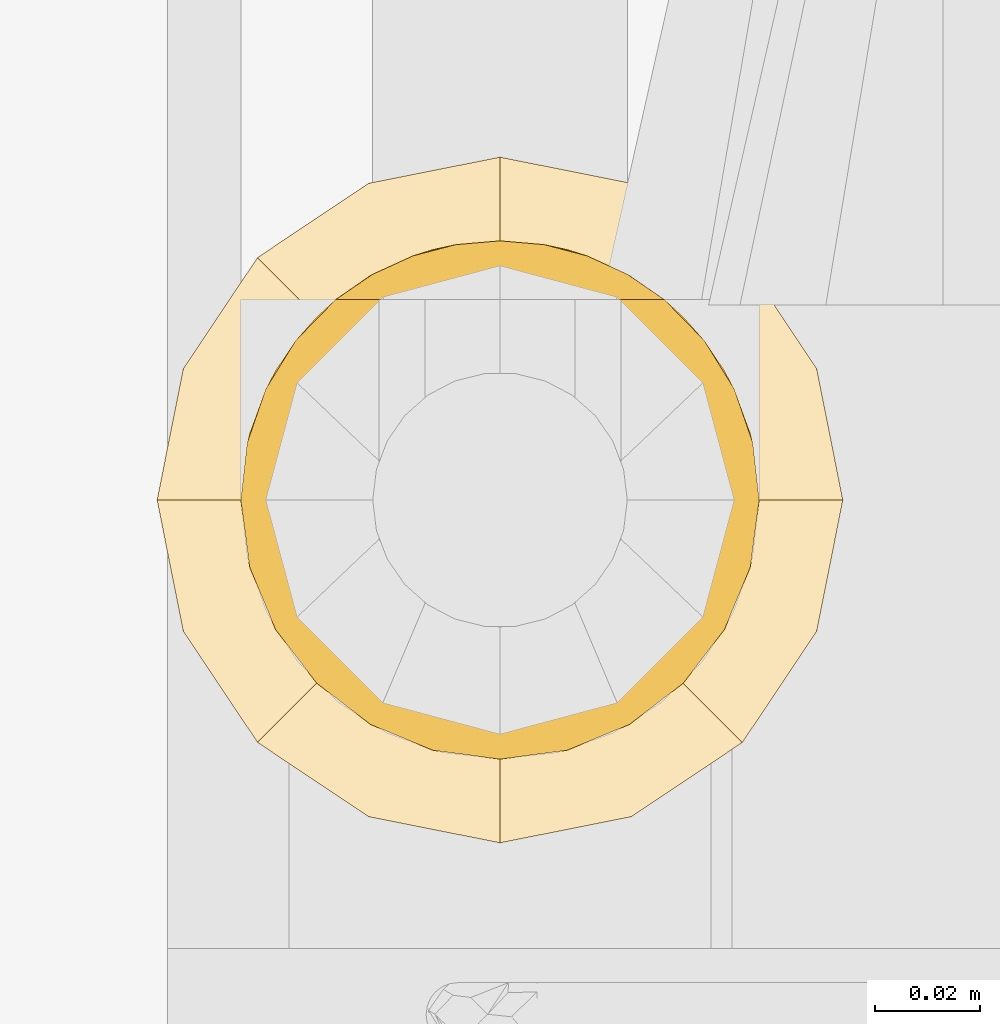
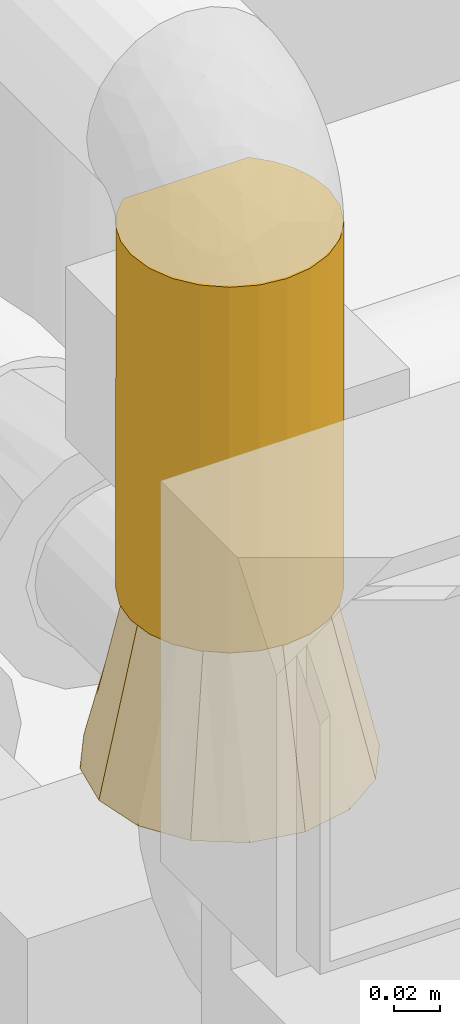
# One storey, part 23 of 94: 2 coverings.
"""IFC2X3 building model written with IfcOpenShell, lengths in millimetres."""

import ifcopenshell
import ifcopenshell.guid

model = None  # the IFC model being written
_history = None  # IfcOwnerHistory: only IFC2X3 demands one
_inside = {}  # id of a spatial element -> (the spatial element, [elements in it])
_under = {}  # id of a project, library or spatial element -> (it, [spatial elements below it])
_declared = {}  # id of a project -> (the project, [libraries it declares])
_typed = {}  # id of a type object -> (the type object, [elements of that type])
_made_of = {}  # id of a material, layer set ... -> (it, [elements and type objects made of it])


def new_model(schema):
    """Start an empty IFC model of exactly this schema.

    Asked for "IFC4X3", IfcOpenShell would pick the latest addendum, in which some entities
    have other attributes; the version numbers below select the first issue.
    IFC2X3 requires an IfcOwnerHistory on every rooted entity: one is made here for all.
    """
    global model, _history
    if schema == "IFC4X3":
        model = ifcopenshell.file(schema_version=(4, 3, 0, 0))
    else:
        model = ifcopenshell.file(schema=schema)
    _inside.clear()
    _under.clear()
    _declared.clear()
    _typed.clear()
    _made_of.clear()
    _history = None
    if model.schema == "IFC2X3":
        org = make("IfcOrganization", Name="unknown")
        user = make(
            "IfcPersonAndOrganization",
            ThePerson=make("IfcPerson", FamilyName="unknown"),
            TheOrganization=org,
        )
        app = make(
            "IfcApplication",
            ApplicationDeveloper=org,
            Version="unknown",
            ApplicationFullName="unknown",
            ApplicationIdentifier="unknown",
        )
        _history = make(
            "IfcOwnerHistory",
            OwningUser=user,
            OwningApplication=app,
            ChangeAction="ADDED",
            CreationDate=0,
        )
    return model


def make(cls, **values):
    """One entity of the class cls with the attributes given. An attribute that is None is left unset."""
    return model.create_entity(
        cls, **{name: value for name, value in values.items() if value is not None}
    )


def entity(cls, *values):
    """Any entity or typed value of the class cls, its attributes in the order of the schema. None: left unset."""
    e = model.create_entity(cls)
    for i, value in enumerate(values):
        if value is not None:
            e[i] = value
    return e


def rooted(cls, **values):
    """An entity with a GlobalId (a new one), such as an element, a storey or a relation."""
    return make(cls, GlobalId=ifcopenshell.guid.new(), OwnerHistory=_history, **values)


def si_unit(unit_type, name, prefix=None):
    """IfcSIUnit, for example si_unit("LENGTHUNIT", "METRE", prefix="MILLI")."""
    return make("IfcSIUnit", UnitType=unit_type, Prefix=prefix, Name=name)


def converted_unit(unit_type, name, factor, base, dimensions=None, offset=None):
    """IfcConversionBasedUnit, such as the inch: factor (a typed value) times the base unit."""
    return make(
        "IfcConversionBasedUnit"
        if offset is None
        else "IfcConversionBasedUnitWithOffset",
        ConversionOffset=offset,
        Dimensions=None
        if dimensions is None
        else entity("IfcDimensionalExponents", *dimensions),
        UnitType=unit_type,
        Name=name,
        ConversionFactor=make(
            "IfcMeasureWithUnit", ValueComponent=factor, UnitComponent=base
        ),
    )


def derived_unit(unit_type, elements):
    """IfcDerivedUnit: a product of units, each with its exponent."""
    return make(
        "IfcDerivedUnit",
        Elements=[
            make("IfcDerivedUnitElement", Unit=unit, Exponent=power)
            for unit, power in elements
        ],
        UnitType=unit_type,
    )


def assignment(units):
    """IfcUnitAssignment: the units of a project."""
    return None if units is None else make("IfcUnitAssignment", Units=units)


def point(xyz):
    """IfcCartesianPoint."""
    return None if xyz is None else make("IfcCartesianPoint", Coordinates=xyz)


def direction(xyz):
    """IfcDirection."""
    return None if xyz is None else make("IfcDirection", DirectionRatios=xyz)


def frame(location, z_axis=None, x_axis=None):
    """IfcAxis2Placement3D, a coordinate frame: its origin and axes. An axis left out is left unset."""
    return make(
        "IfcAxis2Placement3D",
        Location=point(location),
        Axis=direction(z_axis),
        RefDirection=direction(x_axis),
    )


def origin():
    """The frame at (0, 0, 0) with its axes left unset."""
    return frame((0.0, 0.0, 0.0))


def place(relative_to, where):
    """IfcLocalPlacement: puts the frame where relative to a parent placement (None: the world)."""
    return make(
        "IfcLocalPlacement", PlacementRelTo=relative_to, RelativePlacement=where
    )


def context(
    kind, dimensions, precision=None, world=None, true_north=None, identifier=None
):
    """IfcGeometricRepresentationContext, for example the 3D "Model" context."""
    return make(
        "IfcGeometricRepresentationContext",
        ContextIdentifier=identifier,
        ContextType=kind,
        CoordinateSpaceDimension=dimensions,
        Precision=precision,
        WorldCoordinateSystem=world,
        TrueNorth=true_north,
    )


def subcontext(parent, identifier, kind, view, scale=None):
    """IfcGeometricRepresentationSubContext, for example "Body" below "Model"."""
    return make(
        "IfcGeometricRepresentationSubContext",
        ContextIdentifier=identifier,
        ContextType=kind,
        ParentContext=parent,
        TargetScale=scale,
        TargetView=view,
    )


def project(units=None, contexts=None):
    """IfcProject with its units and contexts."""
    return rooted(
        "IfcProject",
        Name="project",
        RepresentationContexts=contexts,
        UnitsInContext=assignment(units),
    )


def spatial(cls, under=None, at=None, **own):
    """A site, building, storey or space (cls), placed at a placement, below another one or the project."""
    s = rooted(cls, ObjectPlacement=at, **own)
    if under is not None:
        _under.setdefault(under.id(), (under, []))[1].append(s)
    return s


def faces_of(points, faces, orient=None, outer=None):
    """IfcFace entities. A face is a list of loops; a loop is a list of indices into points, from 0.

    orient and outer hold one flag for each loop. By default every Orientation is true, the
    first loop of a face is its IfcFaceOuterBound and the others are IfcFaceBound.
    """
    made = []
    for i, loops in enumerate(faces):
        bounds = []
        for j, loop in enumerate(loops):
            is_outer = j == 0 if outer is None else outer[i][j]
            bounds.append(
                make(
                    "IfcFaceOuterBound" if is_outer else "IfcFaceBound",
                    Bound=make("IfcPolyLoop", Polygon=[points[k] for k in loop]),
                    Orientation=True if orient is None else orient[i][j],
                )
            )
        made.append(make("IfcFace", Bounds=bounds))
    return made


def faceted_brep(points, faces, orient=None, outer=None, voids=None):
    """IfcFacetedBrep: a solid bounded by flat faces; with voids (closed shells), ...WithVoids."""
    shared = [point(p) for p in points]
    hull = make("IfcClosedShell", CfsFaces=faces_of(shared, faces, orient, outer))
    if voids is None:
        return make("IfcFacetedBrep", Outer=hull)
    return make(
        "IfcFacetedBrepWithVoids",
        Outer=hull,
        Voids=[
            make(cls, CfsFaces=faces_of(shared, fs, o, b)) for cls, fs, o, b in voids
        ],
    )


def shape(context_of_items, identifier, shape_type, items):
    """IfcShapeRepresentation: the items that make up one representation, for example the "Body"."""
    return make(
        "IfcShapeRepresentation",
        ContextOfItems=context_of_items,
        RepresentationIdentifier=identifier,
        RepresentationType=shape_type,
        Items=items,
    )


def material(Name=None, Category=None):
    """IfcMaterial."""
    return make("IfcMaterial", Name=Name, Category=Category)


def made_of(thing, what):
    """Note that an element or type object is made of a material, layer set ...; save() writes the relation."""
    if what is not None:
        _made_of.setdefault(what.id(), (what, []))[1].append(thing)
    return thing


def element(
    cls,
    number,
    at=None,
    inside=None,
    cuts=None,
    type_object=None,
    material=None,
    context=None,
    identifier="Body",
    shape_type=None,
    held_by="IfcProductDefinitionShape",
    body=None,
    shapes=None,
    **own,
):
    """One element of the class cls, such as IfcWall. Its Tag is "e" and its number.

    at: its placement. inside: the storey or other place that contains it. cuts: it is an
    opening in that element (IfcRelVoidsElement). A single representation is given by context,
    identifier, shape_type and body (its items); several are given by shapes. held_by: the class
    of the entity that holds the representations. save() writes the other relations.
    """
    e = rooted(cls, Tag="e%d" % number, ObjectPlacement=at, **own)
    if body is not None:
        shapes = [shape(context, identifier, shape_type, body)]
    if shapes is not None:
        e.Representation = make(held_by, Representations=shapes)
    if inside is not None:
        _inside.setdefault(inside.id(), (inside, []))[1].append(e)
    if cuts is not None:
        rooted(
            "IfcRelVoidsElement", RelatingBuildingElement=cuts, RelatedOpeningElement=e
        )
    if type_object is not None:
        _typed.setdefault(type_object.id(), (type_object, []))[1].append(e)
    return made_of(e, material)


def aggregate(whole, parts):
    """IfcRelAggregates: a whole, such as a stair, and the parts it consists of."""
    return rooted("IfcRelAggregates", RelatingObject=whole, RelatedObjects=parts)


def save(model, path):
    """Write the relations noted so far, then the file.

    IfcRelAggregates (storeys below a building ...), IfcRelContainedInSpatialStructure (elements
    in a storey), IfcRelDefinesByType, IfcRelAssociatesMaterial and IfcRelDeclares: one each for
    every whole, place, type object, material and project.
    """
    for whole, parts in _under.values():
        aggregate(whole, parts)
    for where, things in _inside.values():
        rooted(
            "IfcRelContainedInSpatialStructure",
            RelatedElements=things,
            RelatingStructure=where,
        )
    for kind, things in _typed.values():
        rooted("IfcRelDefinesByType", RelatedObjects=things, RelatingType=kind)
    for what, things in _made_of.values():
        rooted("IfcRelAssociatesMaterial", RelatedObjects=things, RelatingMaterial=what)
    for by, libraries in _declared.values():
        rooted("IfcRelDeclares", RelatingContext=by, RelatedDefinitions=libraries)
    model.write(path)


model = new_model("IFC2X3")

# Units and contexts
model_context = context("Model", 3, precision=0.01, world=origin(), true_north=direction((6.123031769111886e-17, 1.0)))
body_context = subcontext(model_context, "Body", "Model", "MODEL_VIEW")
ifc_project = project(units=[si_unit("LENGTHUNIT", "METRE", prefix="MILLI"), si_unit("AREAUNIT", "SQUARE_METRE"), si_unit("VOLUMEUNIT", "CUBIC_METRE"), converted_unit("PLANEANGLEUNIT", "DEGREE", entity("IfcRatioMeasure", 0.017453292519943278), si_unit("PLANEANGLEUNIT", "RADIAN"), dimensions=[0, 0, 0, 0, 0, 0, 0]), si_unit("MASSUNIT", "GRAM", prefix="KILO"), derived_unit("MASSDENSITYUNIT", [(si_unit("MASSUNIT", "GRAM", prefix="KILO"), 1), (si_unit("LENGTHUNIT", "METRE"), -3)]), derived_unit("IONCONCENTRATIONUNIT", [(si_unit("MASSUNIT", "GRAM", prefix="KILO"), 1), (si_unit("LENGTHUNIT", "METRE"), -3)]), derived_unit("MOMENTOFINERTIAUNIT", [(si_unit("LENGTHUNIT", "METRE"), 4)]), si_unit("TIMEUNIT", "SECOND"), si_unit("FREQUENCYUNIT", "HERTZ"), si_unit("THERMODYNAMICTEMPERATUREUNIT", "DEGREE_CELSIUS"), derived_unit("THERMALTRANSMITTANCEUNIT", [(si_unit("MASSUNIT", "GRAM", prefix="KILO"), 1), (si_unit("THERMODYNAMICTEMPERATUREUNIT", "KELVIN"), -1), (si_unit("TIMEUNIT", "SECOND"), -3)]), derived_unit("THERMALCONDUCTANCEUNIT", [(si_unit("MASSUNIT", "GRAM", prefix="KILO"), 1), (si_unit("THERMODYNAMICTEMPERATUREUNIT", "KELVIN"), -1), (si_unit("TIMEUNIT", "SECOND"), -3), (si_unit("LENGTHUNIT", "METRE"), 1)]), derived_unit("VOLUMETRICFLOWRATEUNIT", [(si_unit("LENGTHUNIT", "METRE"), 3), (si_unit("TIMEUNIT", "SECOND"), -1)]), derived_unit("MASSFLOWRATEUNIT", [(si_unit("MASSUNIT", "GRAM", prefix="KILO"), 1), (si_unit("TIMEUNIT", "SECOND"), -1)]), derived_unit("ROTATIONALFREQUENCYUNIT", [(si_unit("TIMEUNIT", "SECOND"), -1)]), si_unit("ELECTRICCURRENTUNIT", "AMPERE"), si_unit("ELECTRICVOLTAGEUNIT", "VOLT"), si_unit("POWERUNIT", "WATT"), si_unit("FORCEUNIT", "NEWTON", prefix="KILO"), si_unit("ILLUMINANCEUNIT", "LUX"), si_unit("LUMINOUSFLUXUNIT", "LUMEN"), si_unit("LUMINOUSINTENSITYUNIT", "CANDELA"), derived_unit("USERDEFINED", [(si_unit("MASSUNIT", "GRAM", prefix="KILO"), -1), (si_unit("LENGTHUNIT", "METRE"), -2), (si_unit("TIMEUNIT", "SECOND"), 3), (si_unit("LUMINOUSFLUXUNIT", "LUMEN"), 1)]), derived_unit("USERDEFINED", [(si_unit("MASSUNIT", "GRAM", prefix="KILO"), 1), (si_unit("TIMEUNIT", "SECOND"), -3), (si_unit("LENGTHUNIT", "METRE"), 3), (si_unit("ELECTRICCURRENTUNIT", "AMPERE"), -2)]), derived_unit("SOUNDPOWERUNIT", [(si_unit("MASSUNIT", "GRAM", prefix="KILO"), 1), (si_unit("TIMEUNIT", "SECOND"), -3), (si_unit("LENGTHUNIT", "METRE"), 2)]), derived_unit("SOUNDPRESSUREUNIT", [(si_unit("MASSUNIT", "GRAM", prefix="KILO"), 1), (si_unit("LENGTHUNIT", "METRE"), -1), (si_unit("TIMEUNIT", "SECOND"), -2)]), derived_unit("LINEARVELOCITYUNIT", [(si_unit("LENGTHUNIT", "METRE"), 1), (si_unit("TIMEUNIT", "SECOND"), -1)]), si_unit("PRESSUREUNIT", "PASCAL"), derived_unit("USERDEFINED", [(si_unit("MASSUNIT", "GRAM", prefix="KILO"), 1), (si_unit("LENGTHUNIT", "METRE"), -2), (si_unit("TIMEUNIT", "SECOND"), -2)]), derived_unit("LINEARFORCEUNIT", [(si_unit("MASSUNIT", "GRAM", prefix="KILO"), 1), (si_unit("TIMEUNIT", "SECOND"), -2)]), derived_unit("PLANARFORCEUNIT", [(si_unit("MASSUNIT", "GRAM", prefix="KILO"), 1), (si_unit("LENGTHUNIT", "METRE"), -1), (si_unit("TIMEUNIT", "SECOND"), -2)]), derived_unit("SPECIFICHEATCAPACITYUNIT", [(si_unit("THERMODYNAMICTEMPERATUREUNIT", "KELVIN"), -1), (si_unit("LENGTHUNIT", "METRE"), 2), (si_unit("TIMEUNIT", "SECOND"), -2)]), derived_unit("HEATINGVALUEUNIT", [(si_unit("LENGTHUNIT", "METRE"), 2), (si_unit("TIMEUNIT", "SECOND"), -2)]), derived_unit("VAPORPERMEABILITYUNIT", [(si_unit("LENGTHUNIT", "METRE"), -1), (si_unit("TIMEUNIT", "SECOND"), 1)]), derived_unit("DYNAMICVISCOSITYUNIT", [(si_unit("MASSUNIT", "GRAM", prefix="KILO"), 1), (si_unit("TIMEUNIT", "SECOND"), -1), (si_unit("LENGTHUNIT", "METRE"), -1)]), derived_unit("THERMALEXPANSIONCOEFFICIENTUNIT", [(si_unit("THERMODYNAMICTEMPERATUREUNIT", "KELVIN"), -1)]), derived_unit("MODULUSOFELASTICITYUNIT", [(si_unit("MASSUNIT", "GRAM", prefix="KILO"), 1), (si_unit("LENGTHUNIT", "METRE"), -1), (si_unit("TIMEUNIT", "SECOND"), -2)]), derived_unit("ISOTHERMALMOISTURECAPACITYUNIT", [(si_unit("LENGTHUNIT", "METRE"), 3), (si_unit("MASSUNIT", "GRAM", prefix="KILO"), -1)]), derived_unit("MOISTUREDIFFUSIVITYUNIT", [(si_unit("TIMEUNIT", "SECOND"), -1), (si_unit("LENGTHUNIT", "METRE"), 2)])], contexts=[model_context])

# Site, building, storey
site_placement = place(None, origin())
site = spatial("IfcSite", under=ifc_project, at=site_placement, Name="Default", CompositionType="ELEMENT")
building_placement = place(site_placement, origin())
building = spatial("IfcBuilding", under=site, at=building_placement, CompositionType="ELEMENT")
storey_placement = place(building_placement, origin())
storey = spatial("IfcBuildingStorey", under=building, at=storey_placement, Name="Niveau 0", CompositionType="ELEMENT", Elevation=0.0)

# Coverings
ifc_material = material(Name="Isolation - Laine minérale")
covering_1_placement = place(storey_placement, frame((-7061.46595441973, 8814.145147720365, 770.0)))
element("IfcCovering", 1, at=covering_1_placement, inside=storey, material=ifc_material, Name="Isolation des canalisations:Laine minérale", ObjectType="Isolation des canalisations:Laine minérale", PredefinedType="INSULATION", context=body_context, shape_type="Brep", body=[
    faceted_brep([(3.269336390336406, 38.00949255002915, 0.0), (1.5952722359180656, 50.72527223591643, 0.0), (3.269336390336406, 63.4410519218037, 0.0), (8.177444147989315, 75.29027223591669, 0.0), (15.98511607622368, 85.46542839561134, 0.0), (26.160272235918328, 93.2731003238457, 0.0), (38.00949255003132, 98.18120808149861, 0.0), (50.72527223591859, 99.85527223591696, 0.0), (63.441051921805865, 98.18120808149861, 0.0), (75.29027223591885, 93.2731003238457, 0.0), (85.4654283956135, 85.46542839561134, 0.0), (93.27310032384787, 75.29027223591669, 0.0), (98.18120808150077, 63.4410519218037, 0.0), (99.85527223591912, 50.72527223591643, 0.0), (98.18120808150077, 38.00949255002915, 0.0), (93.27310032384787, 26.160272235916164, 0.0), (85.4654283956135, 15.985116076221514, 0.0), (75.29027223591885, 8.17744414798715, 0.0), (63.441051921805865, 3.26933639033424, 0.0), (50.72527223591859, 1.5952722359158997, 0.0), (38.0094925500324, 3.26933639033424, 0.0), (26.160272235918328, 8.17744414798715, 0.0), (15.98511607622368, 15.985116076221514, 0.0), (8.177444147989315, 26.160272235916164, 0.0), (2.793596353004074, 61.51004608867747, 192.0), (1.5952722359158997, 50.72527223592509, 192.0), (3.26933639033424, 38.00949255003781, 192.0), (8.17744414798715, 26.160272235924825, 192.0), (15.985116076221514, 15.985116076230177, 192.0), (26.160272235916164, 8.177444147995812, 192.0), (38.00949255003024, 3.2693363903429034, 192.0), (50.72527223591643, 1.5952722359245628, 192.0), (63.4410519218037, 3.2693363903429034, 192.0), (75.29027223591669, 8.177444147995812, 192.0), (85.46542839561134, 15.985116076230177, 192.0), (93.2731003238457, 26.160272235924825, 192.0), (98.18120808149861, 38.00949255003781, 192.0), (99.85527223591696, 50.72527223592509, 192.0), (98.65694811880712, 61.510046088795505, 192.0), (95.1273794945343, 71.75405658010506, 192.0), (89.43799981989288, 80.97558831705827, 192.0), (81.86619226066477, 88.72527223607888, 192.0), (19.584352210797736, 88.72527223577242, 192.0), (12.012544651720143, 80.97558831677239, 192.0), (6.3231649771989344, 71.75405657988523, 192.0), (59.11608534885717, 99.13344463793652, 181.59182759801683), (67.26033951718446, 96.98917230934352, 183.73609992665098), (74.91872078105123, 93.48546338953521, 187.2398088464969), (50.72527223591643, 99.85527223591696, 180.8699999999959), (26.531823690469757, 93.48546338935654, 187.2398088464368), (34.19020495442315, 96.98917230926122, 183.7360999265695), (42.33445912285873, 99.13344463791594, 181.59182759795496)], [[[0, 1, 2, 3, 4, 5, 6, 7, 8, 9, 10, 11, 12, 13, 14, 15, 16, 17, 18, 19, 20, 21, 22, 23]], [[24, 25, 26, 27, 28, 29, 30, 31, 32, 33, 34, 35, 36, 37, 38, 39, 40, 41, 42, 43, 44]], [[45, 46, 8]], [[47, 41, 9]], [[46, 47, 9]], [[48, 45, 7]], [[7, 45, 8]], [[46, 9, 8]], [[41, 10, 9]], [[11, 40, 39]], [[12, 39, 38]], [[13, 38, 37]], [[10, 40, 11]], [[11, 39, 12]], [[38, 13, 12]], [[40, 10, 41]], [[14, 13, 37, 36]], [[15, 14, 36, 35]], [[35, 34, 16, 15]], [[18, 17, 33, 32]], [[19, 18, 32, 31]], [[34, 33, 17, 16]], [[20, 19, 31, 30]], [[21, 20, 30, 29]], [[29, 28, 22, 21]], [[0, 23, 27, 26]], [[1, 0, 26, 25]], [[28, 27, 23, 22]], [[1, 25, 24]], [[2, 24, 44]], [[3, 44, 43]], [[1, 24, 2]], [[2, 44, 3]], [[43, 4, 3]], [[43, 42, 4]], [[42, 49, 5]], [[50, 51, 6]], [[49, 50, 5]], [[5, 50, 6]], [[7, 6, 51]], [[48, 7, 51]], [[42, 5, 4]], [[46, 45, 48, 51, 50, 49, 42, 41, 47]]]),
])
covering_2_placement = place(storey_placement, frame((-7077.335954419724, 8798.275147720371, 770.0)))
element("IfcCovering", 2, at=covering_2_placement, inside=storey, material=ifc_material, Name="Isolation des canalisations:Laine minérale", ObjectType="Isolation des canalisations:Laine minérale", PredefinedType="INSULATION", context=body_context, shape_type="Brep", body=[
    faceted_brep([(27.624129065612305, 89.09527223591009, 0.0), (24.609700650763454, 77.84527223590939, 0.0), (21.595272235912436, 66.59527223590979, 0.0), (24.60970065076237, 55.34527223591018, 0.0), (27.624129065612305, 44.09527223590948, 0.0), (35.85970065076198, 35.85970065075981, 0.0), (44.09527223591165, 27.624129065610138, 0.0), (55.34527223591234, 24.609700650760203, 0.0), (66.59527223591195, 21.59527223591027, 0.0), (77.84527223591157, 24.609700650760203, 0.0), (89.09527223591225, 27.624129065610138, 0.0), (97.33084382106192, 35.85970065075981, 0.0), (105.56641540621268, 44.09527223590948, 0.0), (108.58084382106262, 55.34527223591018, 0.0), (111.59527223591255, 66.59527223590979, 0.0), (108.58084382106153, 77.84527223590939, 0.0), (105.5664154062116, 89.09527223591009, 0.0), (97.33084382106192, 97.33084382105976, 0.0), (89.09527223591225, 105.56641540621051, 0.0), (77.84527223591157, 108.58084382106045, 0.0), (66.59527223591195, 111.59527223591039, 0.0), (55.34527223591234, 108.58084382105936, 0.0), (44.09527223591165, 105.56641540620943, 0.0), (35.85970065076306, 97.33084382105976, 0.0), (41.72084913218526, 126.64744184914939, -89.0), (54.158060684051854, 129.12135704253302, -89.0), (66.59527223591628, 131.5952722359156, -89.0), (79.03248378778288, 129.12135704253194, -89.0), (91.46969533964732, 126.64744184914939, -89.0), (102.01345417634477, 119.6023274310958, -89.0), (112.55721301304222, 112.55721301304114, -89.0), (119.6023274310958, 102.01345417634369, -89.0), (126.64744184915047, 91.46969533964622, -89.0), (129.12135704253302, 79.03248378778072, -89.0), (131.59527223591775, 66.5952722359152, -89.0), (129.1213570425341, 54.15806068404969, -89.0), (126.64744184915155, 41.72084913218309, -89.0), (119.6023274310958, 31.1770902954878, -89.0), (112.55721301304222, 20.633331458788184, -89.0), (102.01345417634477, 13.5882170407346, -89.0), (91.46969533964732, 6.543102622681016, -89.0), (79.03248378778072, 4.0691874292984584, -89.0), (66.59527223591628, 1.5952722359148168, -89.0), (54.15806068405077, 4.069187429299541, -89.0), (41.72084913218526, 6.543102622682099, -89.0), (31.1770902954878, 13.588217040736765, -89.0), (20.633331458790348, 20.633331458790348, -89.0), (13.588217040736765, 31.1770902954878, -89.0), (6.543102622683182, 41.72084913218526, -89.0), (4.069187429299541, 54.15806068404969, -89.0), (1.5952722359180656, 66.5952722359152, -89.0), (4.0691874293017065, 79.03248378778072, -89.0), (6.543102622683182, 91.46969533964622, -89.0), (13.588217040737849, 102.01345417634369, -89.0), (20.63333145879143, 112.55721301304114, -89.0), (31.1770902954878, 119.6023274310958, -89.0)], [[[0, 1, 2, 3, 4, 5, 6, 7, 8, 9, 10, 11, 12, 13, 14, 15, 16, 17, 18, 19, 20, 21, 22, 23]], [[24, 25, 26, 27, 28, 29, 30, 31, 32, 33, 34, 35, 36, 37, 38, 39, 40, 41, 42, 43, 44, 45, 46, 47, 48, 49, 50, 51, 52, 53, 54, 55]], [[35, 34, 14]], [[10, 40, 39]], [[37, 36, 12]], [[37, 12, 11]], [[10, 39, 11]], [[37, 11, 38]], [[41, 40, 9]], [[14, 13, 35]], [[39, 38, 11]], [[8, 41, 9]], [[13, 12, 36]], [[41, 8, 42]], [[40, 10, 9]], [[13, 36, 35]], [[27, 26, 20]], [[16, 32, 31]], [[29, 28, 18]], [[29, 18, 17]], [[16, 31, 17]], [[29, 17, 30]], [[33, 32, 15]], [[20, 19, 27]], [[31, 30, 17]], [[14, 33, 15]], [[19, 18, 28]], [[33, 14, 34]], [[32, 16, 15]], [[19, 28, 27]], [[51, 50, 2]], [[22, 24, 55]], [[53, 52, 0]], [[53, 0, 23]], [[22, 55, 23]], [[53, 23, 54]], [[25, 24, 21]], [[2, 1, 51]], [[55, 54, 23]], [[20, 25, 21]], [[1, 0, 52]], [[25, 20, 26]], [[24, 22, 21]], [[1, 52, 51]], [[43, 42, 8]], [[4, 48, 47]], [[45, 44, 6]], [[45, 6, 5]], [[4, 47, 5]], [[45, 5, 46]], [[49, 48, 3]], [[8, 7, 43]], [[47, 46, 5]], [[2, 49, 3]], [[7, 6, 44]], [[49, 2, 50]], [[48, 4, 3]], [[7, 44, 43]]]),
])

save(model, "model.ifc")
